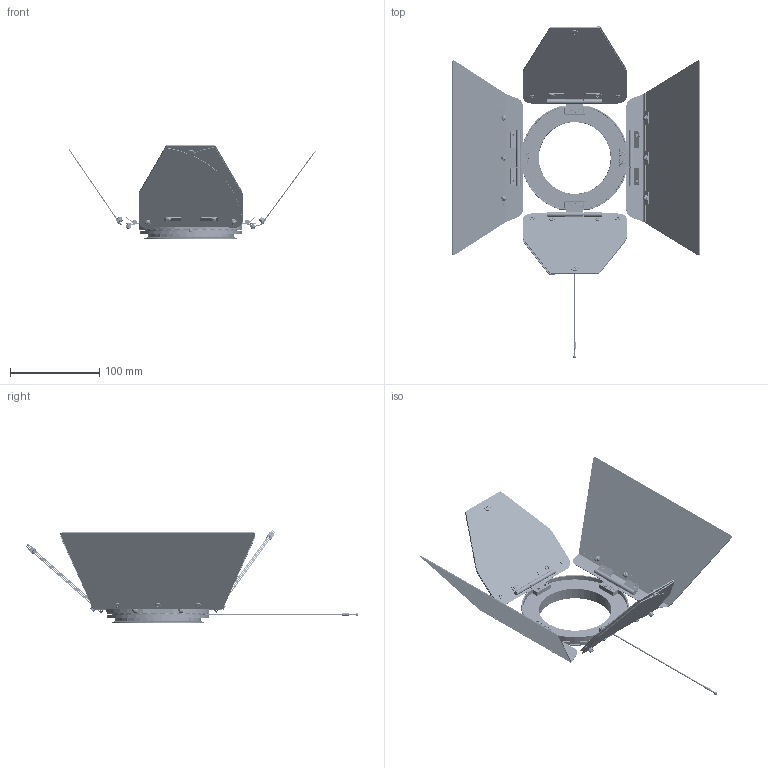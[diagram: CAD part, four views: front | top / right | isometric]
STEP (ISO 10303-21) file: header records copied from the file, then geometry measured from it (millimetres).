
FILE_DESCRIPTION (( 'STEP AP214' ), '1' );
FILE_NAME ('0.Barndoor-Phobos assem-V7D.STEP', '2025-09-25T07:38:42', ( '' ), ( '' ), 'SwSTEP 2.0', 'SolidWorks 2016', '' );
FILE_SCHEMA (( 'AUTOMOTIVE_DESIGN' ));
Length unit declared in the file: millimetre
Products named in the file (23): phobos leaf C; 19045-M3 Lock nut; Phobos Barndoor block ring; Safety rope; 晦芛M3X6; GB／T859-1987轻型弹簧垫圈(装配)3×0．6; Phobos Barndoor base; phobos leaf connector; MEC38503-Phobos Damping shaft-assem; 38502-TM3x4; 晦芛M3X8; KM3X6; 0.Barndoor-Phobos assem-V7D; phobos leaf D; 27196-Teflon gasket-2; phobos leaf E; phobos leaf A; male shaft -C; 38501-4x4xM3; male shaft -B; shaft; 27197-Teflon gasket-0.5; male shaft
Assembly tree (79 placements, depth 3):
  0.Barndoor-Phobos assem-V7D
    Phobos Barndoor base
    Phobos Barndoor block ring
    MEC38503-Phobos Damping shaft-assem  x4
      male shaft
      shaft
      male shaft -B
      male shaft -C
    phobos leaf connector  x2
    phobos leaf A  x2
    phobos leaf C  x2
    phobos leaf D  x2
    phobos leaf E  x2
    晦芛M3X6  x20
    KM3X6  x4
    38501-4x4xM3  x2
    38502-TM3x4  x2
    晦芛M3X8  x4
    19045-M3 Lock nut  x18
    GB／T859-1987轻型弹簧垫圈(装配)3×0．6  x4
    27197-Teflon gasket-0.5  x2
    27196-Teflon gasket-2  x2
    Safety rope
Bounding box: 277.1 x 371.25 x 104.78 mm (x, y, z)
Volume: 139698.6 mm3; surface area: 268988.6 mm2
Topology: 87 solids, 87 shells, 5213 faces, 15737 edges, 10172 vertices
Faces by surface type: cylinder 2917, plane 668, bspline 640, cone 552, torus 398, sphere 38
Entity records: 85289 total; most frequent: CARTESIAN_POINT 45012, ORIENTED_EDGE 8862, DIRECTION 7609, EDGE_CURVE 4431, AXIS2_PLACEMENT_3D 3128, VERTEX_POINT 2765, EDGE_LOOP 1768, ADVANCED_FACE 1654
